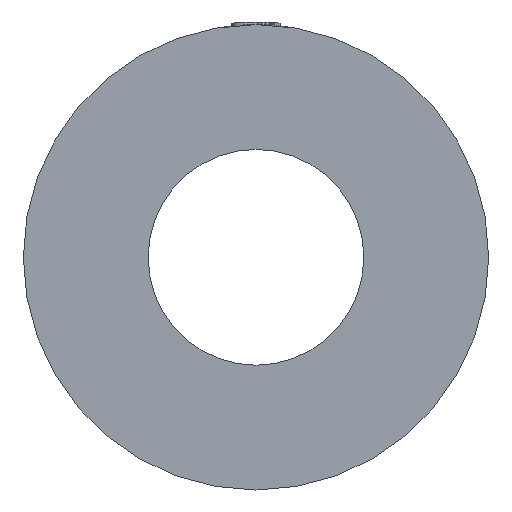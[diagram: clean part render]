
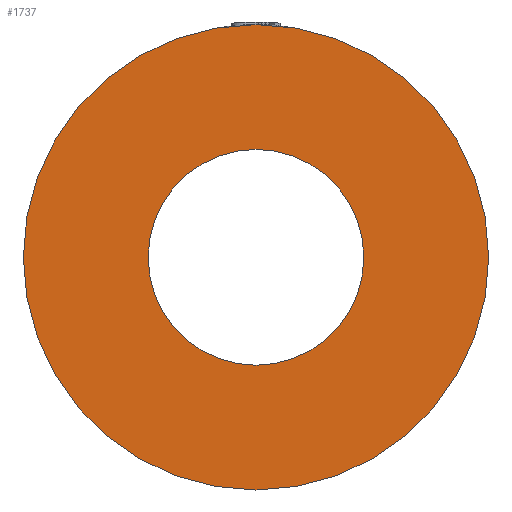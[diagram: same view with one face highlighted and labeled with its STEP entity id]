
A CAD part, left-side view. The second image highlights one B-rep face of the part: STEP entity #1737.
In plain terms, the highlighted planar face has unit normal (-1, 0, 0).
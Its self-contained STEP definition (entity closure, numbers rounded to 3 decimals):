
#61 = DIRECTION ( 'NONE',  ( 0., 0., 1. ) ) ;
#80 = DIRECTION ( 'NONE',  ( -1., 0., 0. ) ) ;
#87 = CARTESIAN_POINT ( 'NONE',  ( 0., 0., 0. ) ) ;
#102 = AXIS2_PLACEMENT_3D ( 'NONE', #1636, #1630, #1581 ) ;
#133 = ORIENTED_EDGE ( 'NONE', *, *, #162, .T. ) ;
#162 = EDGE_CURVE ( 'NONE', #185, #1534, #1976, .T. ) ;
#185 = VERTEX_POINT ( 'NONE', #1541 ) ;
#203 = ORIENTED_EDGE ( 'NONE', *, *, #1980, .T. ) ;
#808 = FACE_BOUND ( 'NONE', #2909, .T. ) ;
#809 = VERTEX_POINT ( 'NONE', #1528 ) ;
#855 = CIRCLE ( 'NONE', #2709, 20.4 ) ;
#979 = DIRECTION ( 'NONE',  ( 0., 0., 1. ) ) ;
#995 = DIRECTION ( 'NONE',  ( -1., 0., 0. ) ) ;
#997 = CARTESIAN_POINT ( 'NONE',  ( 0., 0., 0. ) ) ;
#1104 = CIRCLE ( 'NONE', #1389, 44. ) ;
#1196 = EDGE_CURVE ( 'NONE', #1952, #809, #855, .T. ) ;
#1211 = DIRECTION ( 'NONE',  ( 0., 0., 1. ) ) ;
#1219 = DIRECTION ( 'NONE',  ( -1., 0., 0. ) ) ;
#1227 = CARTESIAN_POINT ( 'NONE',  ( 0., 0., 0. ) ) ;
#1389 = AXIS2_PLACEMENT_3D ( 'NONE', #997, #995, #979 ) ;
#1528 = CARTESIAN_POINT ( 'NONE',  ( 0., 0., 20.4 ) ) ;
#1534 = VERTEX_POINT ( 'NONE', #2531 ) ;
#1541 = CARTESIAN_POINT ( 'NONE',  ( 0., 0., 44. ) ) ;
#1581 = DIRECTION ( 'NONE',  ( 0., 0., 1. ) ) ;
#1600 = CARTESIAN_POINT ( 'NONE',  ( 0., 0., -20.4 ) ) ;
#1623 = AXIS2_PLACEMENT_3D ( 'NONE', #1735, #1716, #1698 ) ;
#1630 = DIRECTION ( 'NONE',  ( -1., 0., 0. ) ) ;
#1636 = CARTESIAN_POINT ( 'NONE',  ( 0., 0., 0. ) ) ;
#1665 = AXIS2_PLACEMENT_3D ( 'NONE', #1227, #1219, #1211 ) ;
#1698 = DIRECTION ( 'NONE',  ( 0., 0., -1. ) ) ;
#1716 = DIRECTION ( 'NONE',  ( 1., 0., 0. ) ) ;
#1735 = CARTESIAN_POINT ( 'NONE',  ( 0., 20.4, 0. ) ) ;
#1737 = ADVANCED_FACE ( 'NONE', ( #808, #2857 ), #1805, .F. ) ;
#1805 = PLANE ( 'NONE',  #1623 ) ;
#1952 = VERTEX_POINT ( 'NONE', #1600 ) ;
#1965 = EDGE_CURVE ( 'NONE', #809, #1952, #2520, .T. ) ;
#1976 = CIRCLE ( 'NONE', #102, 44. ) ;
#1980 = EDGE_CURVE ( 'NONE', #1534, #185, #1104, .T. ) ;
#2510 = ORIENTED_EDGE ( 'NONE', *, *, #1196, .F. ) ;
#2512 = ORIENTED_EDGE ( 'NONE', *, *, #1965, .F. ) ;
#2520 = CIRCLE ( 'NONE', #1665, 20.4 ) ;
#2531 = CARTESIAN_POINT ( 'NONE',  ( 0., 0., -44. ) ) ;
#2709 = AXIS2_PLACEMENT_3D ( 'NONE', #87, #80, #61 ) ;
#2857 = FACE_OUTER_BOUND ( 'NONE', #3020, .T. ) ;
#2909 = EDGE_LOOP ( 'NONE', ( #2512, #2510 ) ) ;
#3020 = EDGE_LOOP ( 'NONE', ( #133, #203 ) ) ;
